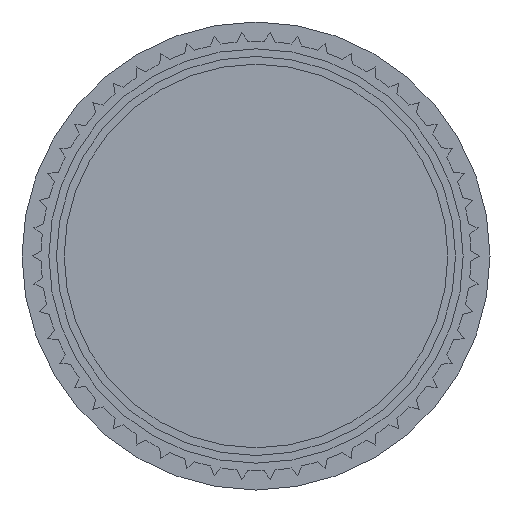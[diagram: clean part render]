
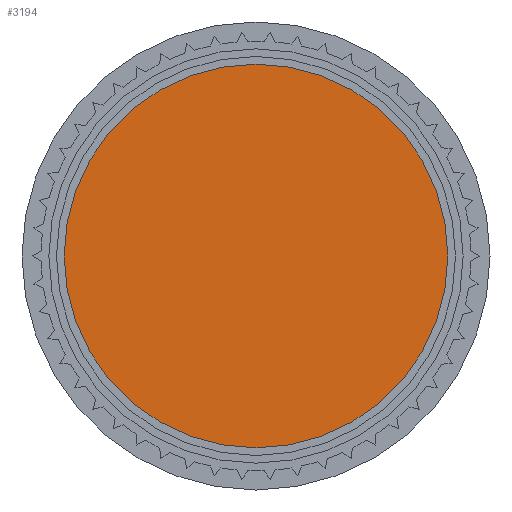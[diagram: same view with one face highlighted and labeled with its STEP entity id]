
A CAD part, front view. The second image highlights one B-rep face of the part: STEP entity #3194.
In plain terms, the highlighted planar face has unit normal (0, -1, 0).
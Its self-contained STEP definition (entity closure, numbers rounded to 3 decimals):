
#134=CIRCLE('',#3468,12.5);
#352=FACE_OUTER_BOUND('',#523,.T.);
#523=EDGE_LOOP('',(#2917));
#1539=VERTEX_POINT('',#5304);
#2000=EDGE_CURVE('',#1539,#1539,#134,.T.);
#2917=ORIENTED_EDGE('',*,*,#2000,.T.);
#3032=PLANE('',#3469);
#3194=ADVANCED_FACE('',(#352),#3032,.F.);
#3468=AXIS2_PLACEMENT_3D('',#5305,#4358,#4359);
#3469=AXIS2_PLACEMENT_3D('',#5306,#4360,#4361);
#4358=DIRECTION('center_axis',(0.,-1.,0.));
#4359=DIRECTION('ref_axis',(1.,0.,0.));
#4360=DIRECTION('center_axis',(0.,1.,0.));
#4361=DIRECTION('ref_axis',(0.,0.,1.));
#5304=CARTESIAN_POINT('',(-12.5,0.,0.));
#5305=CARTESIAN_POINT('Origin',(0.,0.,0.));
#5306=CARTESIAN_POINT('Origin',(0.,0.,0.));
